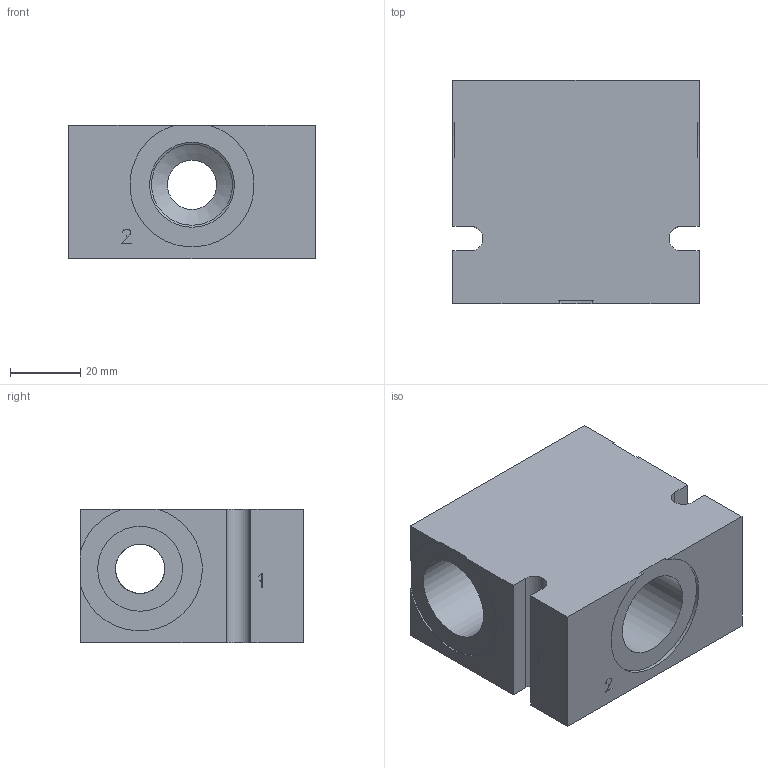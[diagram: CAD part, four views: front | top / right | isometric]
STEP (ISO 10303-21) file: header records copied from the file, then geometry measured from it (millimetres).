
FILE_DESCRIPTION( ( 'Unknown' ), '1' );
FILE_NAME( 'G:/Graphic Design/Graphic Design 2/Data Sheets/Delta Bodies/3_STP/B-DDED3.stp', 'Unknown', ( 'Unknown' ), ( 'Unknown' ), 'PSStep 16.0.42', 'Unknown', ' ' );
FILE_SCHEMA( ( 'AUTOMOTIVE_DESIGN { 1 0 10303 214 1 1 1 1 }' ) );
Length unit declared in the file: millimetre
Products named in the file (1): 1
Bounding box: 70 x 63.5 x 38.1 mm (x, y, z)
Surface area: 26545 mm2 (no closed solid volume)
Topology: 0 solids, 104 shells, 104 faces, 523 edges, 498 vertices
Faces by surface type: plane 72, cylinder 25, cone 7
Full cylindrical faces by diameter (mm): 0.2 x3, 14 x3, 15.9 x1, 17.043 x1, 20.262 x2, 23 x1, 24.117 x6, 30.175 x1
Entity records: 5850 total; most frequent: CARTESIAN_POINT 1589, DIRECTION 594, ORIENTED_EDGE 482, EDGE_CURVE 482, VERTEX_POINT 482, AXIS2_PLACEMENT_3D 199, LINE 196, VECTOR 196
